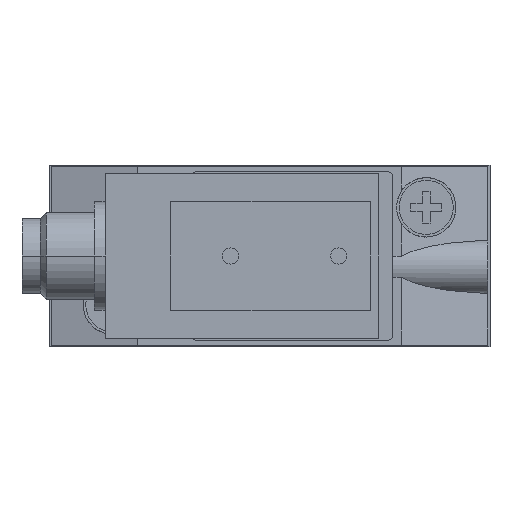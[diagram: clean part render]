
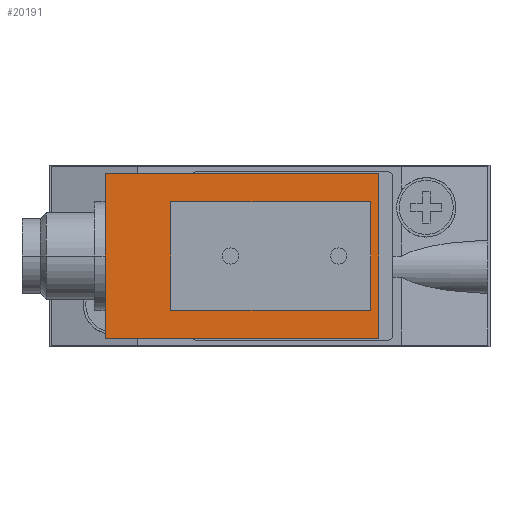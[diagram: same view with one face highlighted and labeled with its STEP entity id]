
A CAD part, left-side view. The second image highlights one B-rep face of the part: STEP entity #20191.
In plain terms, the highlighted planar face has unit normal (-1, 0, 0).
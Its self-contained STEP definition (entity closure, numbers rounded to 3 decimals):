
#7006=DIRECTION('',(0.,-1.,0.));
#7007=VECTOR('',#7006,25.3);
#7008=CARTESIAN_POINT('',(-84.8,15.2,-7.6));
#7009=LINE('',#7008,#7007);
#7096=DIRECTION('',(0.,1.,0.));
#7097=VECTOR('',#7096,25.3);
#7098=CARTESIAN_POINT('',(-84.8,-10.1,7.6));
#7099=LINE('',#7098,#7097);
#7124=DIRECTION('',(0.,0.,-1.));
#7125=VECTOR('',#7124,15.2);
#7126=CARTESIAN_POINT('',(-84.8,-10.1,7.6));
#7127=LINE('',#7126,#7125);
#7132=DIRECTION('',(0.,0.,-1.));
#7133=VECTOR('',#7132,15.2);
#7134=CARTESIAN_POINT('',(-84.8,15.2,7.6));
#7135=LINE('',#7134,#7133);
#7460=DIRECTION('',(0.,0.,-1.));
#7461=VECTOR('',#7460,10.);
#7462=CARTESIAN_POINT('',(-84.8,-9.35,5.));
#7463=LINE('',#7462,#7461);
#7468=DIRECTION('',(0.,1.,0.));
#7469=VECTOR('',#7468,18.5);
#7470=CARTESIAN_POINT('',(-84.8,-9.35,-5.));
#7471=LINE('',#7470,#7469);
#7476=DIRECTION('',(0.,0.,1.));
#7477=VECTOR('',#7476,10.);
#7478=CARTESIAN_POINT('',(-84.8,9.15,-5.));
#7479=LINE('',#7478,#7477);
#7484=DIRECTION('',(0.,-1.,0.));
#7485=VECTOR('',#7484,18.5);
#7486=CARTESIAN_POINT('',(-84.8,9.15,5.));
#7487=LINE('',#7486,#7485);
#8424=CARTESIAN_POINT('',(-84.8,-9.35,5.));
#8425=CARTESIAN_POINT('',(-84.8,-9.35,-5.));
#8426=VERTEX_POINT('',#8424);
#8427=VERTEX_POINT('',#8425);
#8428=CARTESIAN_POINT('',(-84.8,9.15,5.));
#8429=VERTEX_POINT('',#8428);
#8430=CARTESIAN_POINT('',(-84.8,9.15,-5.));
#8431=VERTEX_POINT('',#8430);
#8540=CARTESIAN_POINT('',(-84.8,-10.1,7.6));
#8541=CARTESIAN_POINT('',(-84.8,-10.1,-7.6));
#8542=VERTEX_POINT('',#8540);
#8543=VERTEX_POINT('',#8541);
#8544=CARTESIAN_POINT('',(-84.8,15.2,7.6));
#8545=VERTEX_POINT('',#8544);
#8548=CARTESIAN_POINT('',(-84.8,15.2,-7.6));
#8550=VERTEX_POINT('',#8548);
#20169=CARTESIAN_POINT('',(-84.8,-10.1,-7.6));
#20170=DIRECTION('',(-1.,0.,0.));
#20171=DIRECTION('',(0.,0.,1.));
#20172=AXIS2_PLACEMENT_3D('',#20169,#20170,#20171);
#20173=PLANE('',#20172);
#20174=ORIENTED_EDGE('',*,*,#19984,.F.);
#20176=ORIENTED_EDGE('',*,*,#20175,.F.);
#20177=ORIENTED_EDGE('',*,*,#20151,.F.);
#20178=ORIENTED_EDGE('',*,*,#19955,.T.);
#20179=EDGE_LOOP('',(#20174,#20176,#20177,#20178));
#20180=FACE_OUTER_BOUND('',#20179,.F.);
#20182=ORIENTED_EDGE('',*,*,#20181,.F.);
#20184=ORIENTED_EDGE('',*,*,#20183,.F.);
#20186=ORIENTED_EDGE('',*,*,#20185,.F.);
#20188=ORIENTED_EDGE('',*,*,#20187,.F.);
#20189=EDGE_LOOP('',(#20182,#20184,#20186,#20188));
#20190=FACE_BOUND('',#20189,.F.);
#20191=ADVANCED_FACE('',(#20180,#20190),#20173,.T.);
#19955=EDGE_CURVE('',#8542,#8543,#7127,.T.);
#19984=EDGE_CURVE('',#8550,#8543,#7009,.T.);
#20151=EDGE_CURVE('',#8542,#8545,#7099,.T.);
#20175=EDGE_CURVE('',#8545,#8550,#7135,.T.);
#20181=EDGE_CURVE('',#8426,#8427,#7463,.T.);
#20183=EDGE_CURVE('',#8429,#8426,#7487,.T.);
#20185=EDGE_CURVE('',#8431,#8429,#7479,.T.);
#20187=EDGE_CURVE('',#8427,#8431,#7471,.T.);
